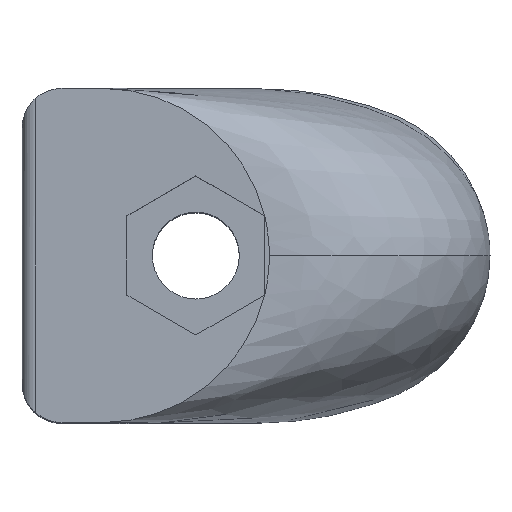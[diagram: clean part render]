
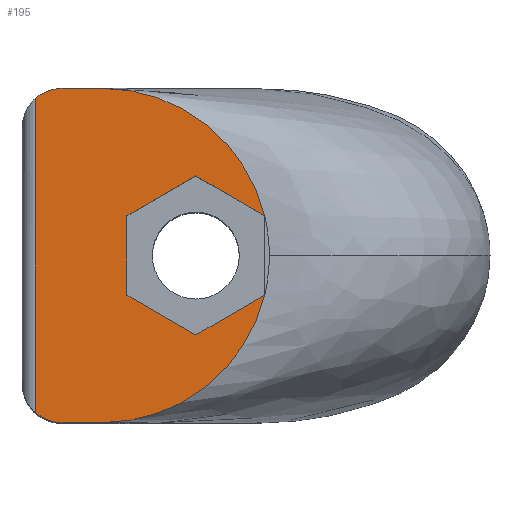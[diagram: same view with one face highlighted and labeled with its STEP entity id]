
A CAD part, top view. The second image highlights one B-rep face of the part: STEP entity #195.
In plain terms, the highlighted planar face has unit normal (0, 0, 1) as drawn and (0, 0, -1) by its records, which use the part's own axes.
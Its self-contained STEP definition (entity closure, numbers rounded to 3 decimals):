
#15 = EDGE_CURVE ( 'NONE', #2463, #2074, #2856, .T. ) ;
#51 = CARTESIAN_POINT ( 'NONE',  ( -13., 12.5, -22.65 ) ) ;
#100 = CARTESIAN_POINT ( 'NONE',  ( -10., -9.5, -22.65 ) ) ;
#106 = CARTESIAN_POINT ( 'NONE',  ( -5.15, -2.973, -22.65 ) ) ;
#128 = LINE ( 'NONE', #327, #556 ) ;
#195 = ADVANCED_FACE ( 'NONE', ( #644 ), #1300, .T. ) ;
#282 = DIRECTION ( 'NONE',  ( 0., 0., 1. ) ) ;
#327 = CARTESIAN_POINT ( 'NONE',  ( 0., 5.947, -22.65 ) ) ;
#363 = CARTESIAN_POINT ( 'NONE',  ( -7., 0., -22.65 ) ) ;
#399 = ORIENTED_EDGE ( 'NONE', *, *, #1523, .T. ) ;
#475 = CARTESIAN_POINT ( 'NONE',  ( 5.146, -2.962, -22.65 ) ) ;
#556 = VECTOR ( 'NONE', #2679, 1000. ) ;
#612 = CARTESIAN_POINT ( 'NONE',  ( -7., 0., -22.65 ) ) ;
#614 = DIRECTION ( 'NONE',  ( 0., 1., 0. ) ) ;
#616 = DIRECTION ( 'NONE',  ( -1., 0., 0. ) ) ;
#637 = EDGE_CURVE ( 'NONE', #2085, #923, #735, .T. ) ;
#644 = FACE_OUTER_BOUND ( 'NONE', #2661, .T. ) ;
#735 = CIRCLE ( 'NONE', #2944, 12.5 ) ;
#749 = EDGE_CURVE ( 'NONE', #1199, #1917, #2181, .T. ) ;
#762 = CARTESIAN_POINT ( 'NONE',  ( 5.15, -2.973, -22.65 ) ) ;
#775 = CARTESIAN_POINT ( 'NONE',  ( -13., -12.5, -22.65 ) ) ;
#857 = CARTESIAN_POINT ( 'NONE',  ( -10., 12.5, -22.65 ) ) ;
#923 = VERTEX_POINT ( 'NONE', #2949 ) ;
#948 = VERTEX_POINT ( 'NONE', #857 ) ;
#955 = VECTOR ( 'NONE', #1347, 1000. ) ;
#965 = ORIENTED_EDGE ( 'NONE', *, *, #1821, .T. ) ;
#974 = DIRECTION ( 'NONE',  ( 0., 1., 0. ) ) ;
#1015 = ORIENTED_EDGE ( 'NONE', *, *, #2214, .F. ) ;
#1019 = DIRECTION ( 'NONE',  ( 1., 0., 0. ) ) ;
#1025 = DIRECTION ( 'NONE',  ( 0., 0., -1. ) ) ;
#1034 = AXIS2_PLACEMENT_3D ( 'NONE', #100, #1025, #1962 ) ;
#1065 = CIRCLE ( 'NONE', #1861, 12.5 ) ;
#1140 = ORIENTED_EDGE ( 'NONE', *, *, #15, .F. ) ;
#1153 = AXIS2_PLACEMENT_3D ( 'NONE', #612, #1520, #1552 ) ;
#1164 = ORIENTED_EDGE ( 'NONE', *, *, #2662, .T. ) ;
#1169 = VERTEX_POINT ( 'NONE', #1876 ) ;
#1175 = EDGE_CURVE ( 'NONE', #923, #948, #1178, .T. ) ;
#1178 = LINE ( 'NONE', #51, #1669 ) ;
#1198 = EDGE_CURVE ( 'NONE', #2074, #1960, #1065, .T. ) ;
#1199 = VERTEX_POINT ( 'NONE', #1410 ) ;
#1238 = LINE ( 'NONE', #2164, #1970 ) ;
#1244 = CARTESIAN_POINT ( 'NONE',  ( -7., -12.5, -22.65 ) ) ;
#1300 = PLANE ( 'NONE',  #1153 ) ;
#1347 = DIRECTION ( 'NONE',  ( 0.866, 0.5, 0. ) ) ;
#1410 = CARTESIAN_POINT ( 'NONE',  ( -5.15, -2.973, -22.65 ) ) ;
#1483 = CARTESIAN_POINT ( 'NONE',  ( -10., 9.5, -22.65 ) ) ;
#1503 = CARTESIAN_POINT ( 'NONE',  ( -10., -12.5, -22.65 ) ) ;
#1516 = ORIENTED_EDGE ( 'NONE', *, *, #749, .F. ) ;
#1520 = DIRECTION ( 'NONE',  ( 0., 0., -1. ) ) ;
#1523 = EDGE_CURVE ( 'NONE', #1169, #2971, #2696, .T. ) ;
#1552 = DIRECTION ( 'NONE',  ( -1., 0., 0. ) ) ;
#1577 = ORIENTED_EDGE ( 'NONE', *, *, #1175, .F. ) ;
#1623 = ORIENTED_EDGE ( 'NONE', *, *, #1930, .F. ) ;
#1640 = VECTOR ( 'NONE', #614, 1000. ) ;
#1641 = CARTESIAN_POINT ( 'NONE',  ( -5.15, 2.973, -22.65 ) ) ;
#1661 = CARTESIAN_POINT ( 'NONE',  ( -7., 0., -22.65 ) ) ;
#1669 = VECTOR ( 'NONE', #2776, 1000. ) ;
#1678 = DIRECTION ( 'NONE',  ( -1., 0., 0. ) ) ;
#1701 = DIRECTION ( 'NONE',  ( -0.866, -0.5, 0. ) ) ;
#1703 = VECTOR ( 'NONE', #1019, 1000. ) ;
#1780 = CARTESIAN_POINT ( 'NONE',  ( -12., 0., -22.65 ) ) ;
#1782 = DIRECTION ( 'NONE',  ( 0., 0., 1. ) ) ;
#1821 = EDGE_CURVE ( 'NONE', #2971, #948, #2356, .T. ) ;
#1861 = AXIS2_PLACEMENT_3D ( 'NONE', #1661, #282, #1678 ) ;
#1876 = CARTESIAN_POINT ( 'NONE',  ( -12., -11.736, -22.65 ) ) ;
#1901 = ORIENTED_EDGE ( 'NONE', *, *, #637, .F. ) ;
#1917 = VERTEX_POINT ( 'NONE', #2582 ) ;
#1930 = EDGE_CURVE ( 'NONE', #1960, #1983, #2829, .T. ) ;
#1957 = CARTESIAN_POINT ( 'NONE',  ( 0., -5.947, -22.65 ) ) ;
#1960 = VERTEX_POINT ( 'NONE', #475 ) ;
#1962 = DIRECTION ( 'NONE',  ( -1., 0., 0. ) ) ;
#1970 = VECTOR ( 'NONE', #2626, 1000. ) ;
#1983 = VERTEX_POINT ( 'NONE', #1957 ) ;
#2017 = CARTESIAN_POINT ( 'NONE',  ( 0., 5.947, -22.65 ) ) ;
#2062 = VERTEX_POINT ( 'NONE', #2017 ) ;
#2074 = VERTEX_POINT ( 'NONE', #1244 ) ;
#2085 = VERTEX_POINT ( 'NONE', #2170 ) ;
#2164 = CARTESIAN_POINT ( 'NONE',  ( 0., -5.947, -22.65 ) ) ;
#2165 = AXIS2_PLACEMENT_3D ( 'NONE', #1483, #2628, #2802 ) ;
#2170 = CARTESIAN_POINT ( 'NONE',  ( 5.148, 2.966, -22.65 ) ) ;
#2181 = LINE ( 'NONE', #106, #2470 ) ;
#2214 = EDGE_CURVE ( 'NONE', #1917, #2062, #2724, .T. ) ;
#2352 = CARTESIAN_POINT ( 'NONE',  ( -12., 11.736, -22.65 ) ) ;
#2356 = CIRCLE ( 'NONE', #2165, 3. ) ;
#2396 = EDGE_CURVE ( 'NONE', #1983, #1199, #1238, .T. ) ;
#2463 = VERTEX_POINT ( 'NONE', #1503 ) ;
#2470 = VECTOR ( 'NONE', #974, 1000. ) ;
#2569 = EDGE_CURVE ( 'NONE', #2062, #2085, #128, .T. ) ;
#2582 = CARTESIAN_POINT ( 'NONE',  ( -5.15, 2.973, -22.65 ) ) ;
#2626 = DIRECTION ( 'NONE',  ( -0.866, 0.5, 0. ) ) ;
#2628 = DIRECTION ( 'NONE',  ( 0., 0., -1. ) ) ;
#2648 = ORIENTED_EDGE ( 'NONE', *, *, #2396, .F. ) ;
#2661 = EDGE_LOOP ( 'NONE', ( #1164, #399, #965, #1577, #1901, #2753, #1015, #1516, #2648, #1623, #2852, #1140 ) ) ;
#2662 = EDGE_CURVE ( 'NONE', #2463, #1169, #2670, .T. ) ;
#2670 = CIRCLE ( 'NONE', #1034, 3. ) ;
#2679 = DIRECTION ( 'NONE',  ( 0.866, -0.5, 0. ) ) ;
#2696 = LINE ( 'NONE', #1780, #1640 ) ;
#2724 = LINE ( 'NONE', #1641, #955 ) ;
#2736 = VECTOR ( 'NONE', #1701, 1000. ) ;
#2753 = ORIENTED_EDGE ( 'NONE', *, *, #2569, .F. ) ;
#2776 = DIRECTION ( 'NONE',  ( -1., 0., 0. ) ) ;
#2802 = DIRECTION ( 'NONE',  ( -1., 0., 0. ) ) ;
#2829 = LINE ( 'NONE', #762, #2736 ) ;
#2852 = ORIENTED_EDGE ( 'NONE', *, *, #1198, .F. ) ;
#2856 = LINE ( 'NONE', #775, #1703 ) ;
#2944 = AXIS2_PLACEMENT_3D ( 'NONE', #363, #1782, #616 ) ;
#2949 = CARTESIAN_POINT ( 'NONE',  ( -7., 12.5, -22.65 ) ) ;
#2971 = VERTEX_POINT ( 'NONE', #2352 ) ;
